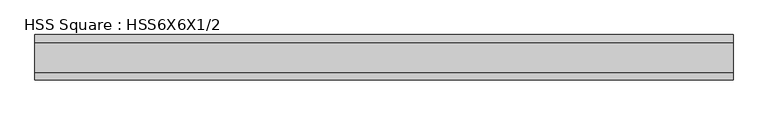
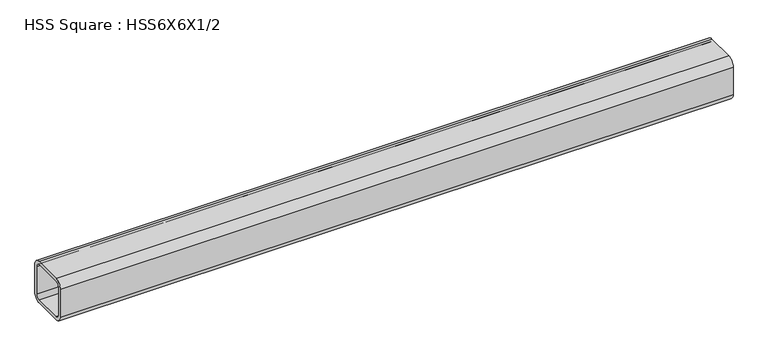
"""IFC4 building model written with IfcOpenShell, lengths in millimetres: beam geometry, HSS Square : HSS6X6X1/2."""

from ifc_helpers import new_model, si_unit, point, frame, frame_2d, origin, place, context, project, spatial, polyline, circle_curve, trimmed, segment, composite_curve, outline, extrude, source, transform, mapped, element, save


def hss_square_hss6x6x1_2_71d29ca0(model_context):
    return source(origin(), model_context, "Body", "SweptSolid", [
        extrude(outline(composite_curve([segment(polyline([(76.2, 50.8), (76.2, -50.8)]), True, "CONTINUOUS"), segment(trimmed(circle_curve(frame_2d((50.8, -50.8)), 25.4), [point((76.2, -50.8))], [point((50.8, -76.2))], False, "CARTESIAN"), True, "CONTINUOUS"), segment(polyline([(50.8, -76.2), (-50.8, -76.2)]), True, "CONTINUOUS"), segment(trimmed(circle_curve(frame_2d((-50.8, -50.8)), 25.4), [point((-50.8, -76.2))], [point((-76.2, -50.8))], False, "CARTESIAN"), True, "CONTINUOUS"), segment(polyline([(-76.2, -50.8), (-76.2, 50.8)]), True, "CONTINUOUS"), segment(trimmed(circle_curve(frame_2d((-50.8, 50.8)), 25.4), [point((-76.2, 50.8))], [point((-50.8, 76.2))], False, "CARTESIAN"), True, "CONTINUOUS"), segment(polyline([(-50.8, 76.2), (50.8, 76.2)]), True, "CONTINUOUS"), segment(trimmed(circle_curve(frame_2d((50.8, 50.8)), 25.4), [point((50.8, 76.2))], [point((76.2, 50.8))], False, "CARTESIAN"), True, "CONTINUOUS")], self_intersect=False), holes=[composite_curve([segment(trimmed(circle_curve(frame_2d((-50.8, 50.8)), 12.7), [point((-50.8, 63.5))], [point((-63.5, 50.8))], True, "CARTESIAN"), True, "CONTINUOUS"), segment(polyline([(-63.5, 50.8), (-63.5, -50.8)]), True, "CONTINUOUS"), segment(trimmed(circle_curve(frame_2d((-50.8, -50.8)), 12.7), [point((-63.5, -50.8))], [point((-50.8, -63.5))], True, "CARTESIAN"), True, "CONTINUOUS"), segment(polyline([(-50.8, -63.5), (50.8, -63.5)]), True, "CONTINUOUS"), segment(trimmed(circle_curve(frame_2d((50.8, -50.8)), 12.7), [point((50.8, -63.5))], [point((63.5, -50.8))], True, "CARTESIAN"), True, "CONTINUOUS"), segment(polyline([(63.5, -50.8), (63.5, 50.8)]), True, "CONTINUOUS"), segment(trimmed(circle_curve(frame_2d((50.8, 50.8)), 12.7), [point((63.5, 50.8))], [point((50.8, 63.5))], True, "CARTESIAN"), True, "CONTINUOUS"), segment(polyline([(50.8, 63.5), (-50.8, 63.5)]), True, "CONTINUOUS")], self_intersect=False)]), frame((-1186.8098583, 0.0, 0.0), z_axis=(1.0, 0.0, 0.0), x_axis=(0.0, 1.0, 0.0)), (0.0, 0.0, 1.0), 2334.0197433),
    ])


if __name__ == "__main__":
    model = new_model("IFC4")
    model_context = context("Model", 3, world=origin())
    ifc_project = project(units=[si_unit("LENGTHUNIT", "METRE", prefix="MILLI")], contexts=[model_context])
    site = spatial("IfcSite", under=ifc_project)
    building = spatial("IfcBuilding", under=site)
    placement = place(None, origin())
    hss_square_hss6x6x1_2_shape = hss_square_hss6x6x1_2_71d29ca0(model_context)
    element("IfcBeam", 1, ObjectType="HSS Square : HSS6X6X1/2", at=placement, inside=building, context=model_context, shape_type="MappedRepresentation", body=[
        mapped(hss_square_hss6x6x1_2_shape, transform((0.0, 0.0, 0.0), x_axis=(1.0, 0.0, 0.0), y_axis=(0.0, 1.0, 0.0), z_axis=(0.0, 0.0, 1.0))),
    ])
    save(model, "model.ifc")
